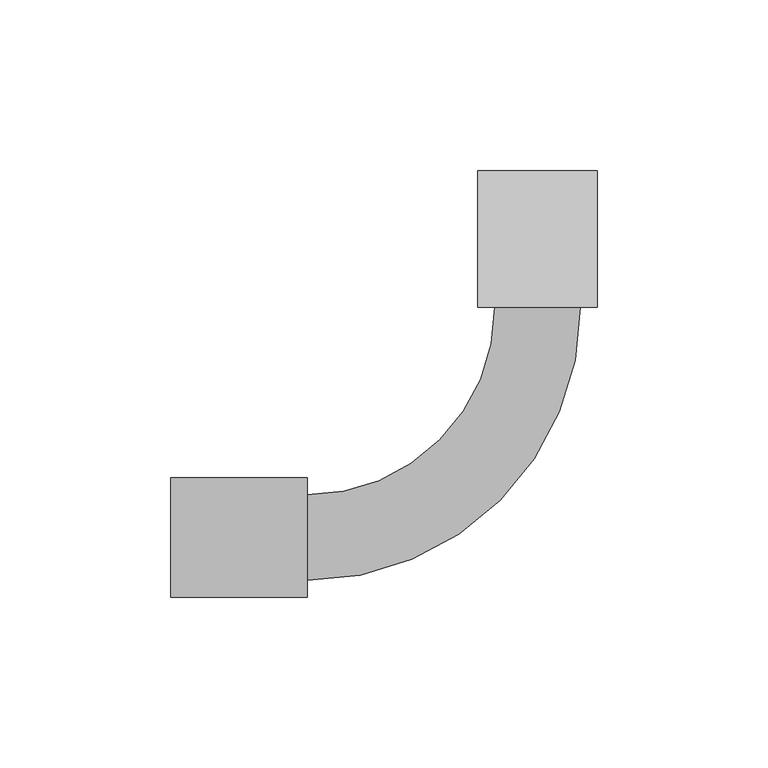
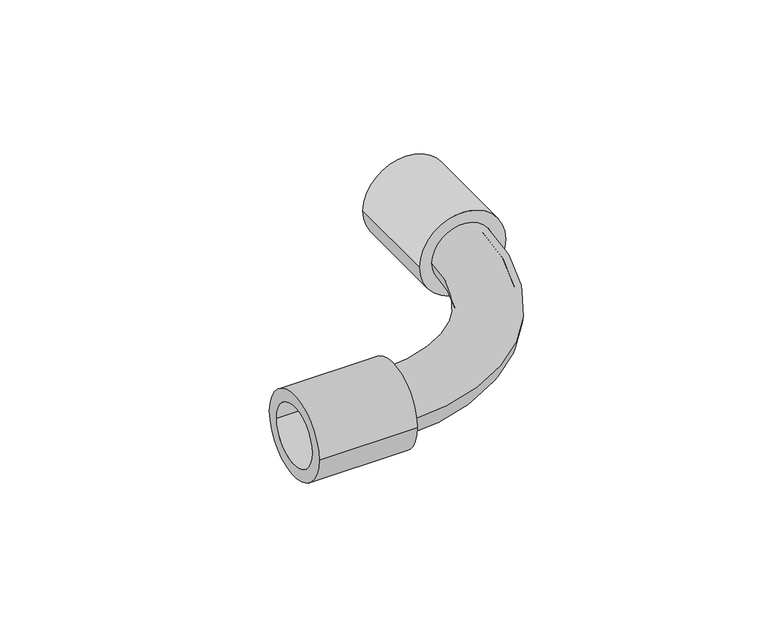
"""IFC4 building model written with IfcOpenShell, lengths in millimetres: cable carrier fitting geometry."""

from ifc_helpers import new_model, si_unit, point, frame, origin, origin_2d, place, context, project, spatial, circle_curve, ellipse_curve, trimmed, segment, composite_curve, outline, extrude, source, transform, mapped, element, save
from ifc_brep_helpers import plane_surface, revolved_surface, advanced_brep


def cable_carrier_fitting_93dc7e58(model_context):
    return source(origin(), model_context, "Body", "SolidModel", [
        advanced_brep(
        [(-67.5, -12.5, 0.0), (-67.5, 12.5, 0.0), (-67.5, -10.0, 0.0), (-67.5, 10.0, 0.0), (12.5, 67.5, 0.0), (-12.5, 67.5, 0.0), (10.0, 67.5, 0.0), (-10.0, 67.5, 0.0)],
        [
            (0, 1, circle_curve(frame((-67.5, 0.0, 0.0), z_axis=(-1.0, 0.0, 0.0), x_axis=(0.0, 1.0, 0.0)), 12.5)),
            (1, 0, circle_curve(frame((-67.5, 0.0, 0.0), z_axis=(-1.0, 0.0, 0.0), x_axis=(0.0, 1.0, 0.0)), 12.5)),
            (2, 3, circle_curve(frame((-67.5, 0.0, 0.0), z_axis=(1.0, 0.0, 0.0), x_axis=(0.0, 1.0, 0.0)), 10.0)),
            (3, 2, circle_curve(frame((-67.5, 0.0, 0.0), z_axis=(1.0, 0.0, 0.0), x_axis=(0.0, 1.0, 0.0)), 10.0)),
            (4, 5, circle_curve(frame((0.0, 67.5, 0.0), z_axis=(0.0, 1.0, 0.0), x_axis=(-1.0, 0.0, 0.0)), 12.5)),
            (5, 4, circle_curve(frame((0.0, 67.5, 0.0), z_axis=(0.0, 1.0, 0.0), x_axis=(-1.0, 0.0, 0.0)), 12.5)),
            (6, 7, circle_curve(frame((0.0, 67.5, 0.0), z_axis=(0.0, -1.0, 0.0), x_axis=(-1.0, 0.0, 0.0)), 10.0)),
            (7, 6, circle_curve(frame((0.0, 67.5, 0.0), z_axis=(0.0, -1.0, 0.0), x_axis=(-1.0, 0.0, 0.0)), 10.0)),
            (5, 1, circle_curve(frame((-67.5, 67.5, 0.0), z_axis=(0.0, 0.0, -1.0), x_axis=(0.0, -1.0, 0.0)), 55.0)),
            (0, 4, circle_curve(frame((-67.5, 67.5, 0.0), z_axis=(0.0, 0.0, 1.0), x_axis=(0.0, -1.0, 0.0)), 80.0)),
            (7, 3, circle_curve(frame((-67.5, 67.5, 0.0), z_axis=(0.0, 0.0, -1.0), x_axis=(0.0, -1.0, 0.0)), 57.5)),
            (2, 6, circle_curve(frame((-67.5, 67.5, 0.0), z_axis=(0.0, 0.0, 1.0), x_axis=(0.0, -1.0, 0.0)), 77.5)),
        ],
        [
            plane_surface(frame((-67.5, 0.0, 0.0), z_axis=(-1.0, 0.0, 0.0), x_axis=(0.0, 0.0, 1.0))),
            plane_surface(frame((0.0, 67.5, 0.0), z_axis=(0.0, 1.0, 0.0), x_axis=(0.0, 0.0, 1.0))),
            revolved_surface(trimmed(ellipse_curve(frame((-67.5, 0.0, 0.0), z_axis=(-1.0, 0.0, 0.0), x_axis=(0.0, 1.0, 0.0)), 12.5, 12.5), [point((-67.5, -12.5, 0.0))], [point((-67.5, 12.5, 0.0))], True, "CARTESIAN"), (-67.5, 67.5, 0.0), (0.0, 0.0, 1.0)),
            revolved_surface(trimmed(ellipse_curve(frame((-67.5, 0.0, 0.0), z_axis=(-1.0, 0.0, 0.0), x_axis=(0.0, 1.0, 0.0)), 12.5, 12.5), [point((-67.5, 12.5, 0.0))], [point((-67.5, -12.5, 0.0))], True, "CARTESIAN"), (-67.5, 67.5, 0.0), (0.0, 0.0, 1.0)),
            revolved_surface(trimmed(ellipse_curve(frame((-67.5, 0.0, 0.0), z_axis=(1.0, 0.0, 0.0), x_axis=(0.0, 1.0, 0.0)), 10.0, 10.0), [point((-67.5, -10.0, 0.0))], [point((-67.5, 10.0, 0.0))], True, "CARTESIAN"), (-67.5, 67.5, 0.0), (0.0, 0.0, 1.0)),
            revolved_surface(trimmed(ellipse_curve(frame((-67.5, 0.0, 0.0), z_axis=(1.0, 0.0, 0.0), x_axis=(0.0, 1.0, 0.0)), 10.0, 10.0), [point((-67.5, 10.0, 0.0))], [point((-67.5, -10.0, 0.0))], True, "CARTESIAN"), (-67.5, 67.5, 0.0), (0.0, 0.0, 1.0)),
        ],
        [
            (0, [[1, 2], [3, 4]]),
            (1, [[5, 6], [7, 8]]),
            (2, [[9, -1, 10, -6]]),
            (3, [[-10, -2, -9, -5]]),
            (4, [[11, -3, 12, -8]]),
            (5, [[-12, -4, -11, -7]]),
        ],
    ),
        extrude(outline(composite_curve([segment(trimmed(circle_curve(origin_2d(), 17.5), [point((0.0, 17.5))], [point((0.0, -17.5))], False, "CARTESIAN"), True, "CONTINUOUS"), segment(trimmed(circle_curve(origin_2d(), 17.5), [point((0.0, -17.5))], [point((0.0, 17.5))], False, "CARTESIAN"), True, "CONTINUOUS")], self_intersect=False), holes=[composite_curve([segment(trimmed(circle_curve(origin_2d(), 12.5), [point((0.0, 12.5))], [point((0.0, -12.5))], True, "CARTESIAN"), True, "CONTINUOUS"), segment(trimmed(circle_curve(origin_2d(), 12.5), [point((0.0, -12.5))], [point((0.0, 12.5))], True, "CARTESIAN"), True, "CONTINUOUS")], self_intersect=False)]), frame((0.0, 67.5, 0.0), z_axis=(0.0, 1.0, 0.0), x_axis=(0.0, 0.0, 1.0)), (0.0, 0.0, 1.0), 40.0),
        extrude(outline(composite_curve([segment(trimmed(circle_curve(origin_2d(), 17.5), [point((-17.5, 0.0))], [point((17.5, 0.0))], False, "CARTESIAN"), True, "CONTINUOUS"), segment(trimmed(circle_curve(origin_2d(), 17.5), [point((17.5, 0.0))], [point((-17.5, 0.0))], False, "CARTESIAN"), True, "CONTINUOUS")], self_intersect=False), holes=[composite_curve([segment(trimmed(circle_curve(origin_2d(), 12.5), [point((-12.5, 0.0))], [point((12.5, 0.0))], True, "CARTESIAN"), True, "CONTINUOUS"), segment(trimmed(circle_curve(origin_2d(), 12.5), [point((12.5, 0.0))], [point((-12.5, 0.0))], True, "CARTESIAN"), True, "CONTINUOUS")], self_intersect=False)]), frame((-107.5, 0.0, 0.0), z_axis=(1.0, 0.0, 0.0), x_axis=(0.0, 1.0, 0.0)), (0.0, 0.0, 1.0), 40.0),
    ])


if __name__ == "__main__":
    model = new_model("IFC4")
    model_context = context("Model", 3, world=origin())
    ifc_project = project(units=[si_unit("LENGTHUNIT", "METRE", prefix="MILLI")], contexts=[model_context])
    site = spatial("IfcSite", under=ifc_project)
    building = spatial("IfcBuilding", under=site)
    placement = place(None, origin())
    cable_carrier_fitting_shape = cable_carrier_fitting_93dc7e58(model_context)
    element("IfcCableCarrierFitting", 1, at=placement, inside=building, context=model_context, shape_type="MappedRepresentation", body=[
        mapped(cable_carrier_fitting_shape, transform((0.0, 0.0, 0.0), x_axis=(1.0, 0.0, 0.0), y_axis=(0.0, 1.0, 0.0), z_axis=(0.0, 0.0, 1.0))),
    ])
    save(model, "model.ifc")
